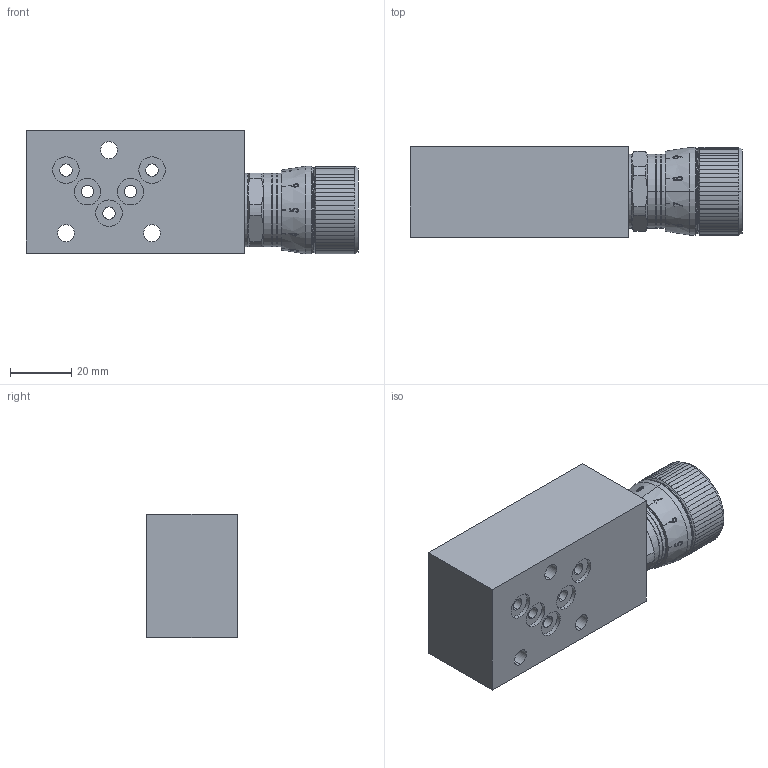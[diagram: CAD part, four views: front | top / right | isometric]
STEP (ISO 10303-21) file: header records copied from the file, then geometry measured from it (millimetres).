
FILE_DESCRIPTION (( 'STEP AP214' ), '1' );
FILE_NAME ('BDRP4.STEP', '2017-04-10T12:49:05', ( '' ), ( '' ), 'SwSTEP 2.0', 'SolidWorks 2016', '' );
FILE_SCHEMA (( 'AUTOMOTIVE_DESIGN' ));
Length unit declared in the file: millimetre
Products named in the file (1): BDRP4
Bounding box: 108 x 29.5 x 40.25 mm (x, y, z)
Volume: 100335 mm3; surface area: 19766.8 mm2
Topology: 1 solids, 1 shells, 623 faces, 1695 edges, 1106 vertices
Faces by surface type: plane 373, cylinder 130, bspline 72, cone 43, torus 5
Entity records: 30528 total; most frequent: CARTESIAN_POINT 9182, ORIENTED_EDGE 3378, DIRECTION 2486, EDGE_CURVE 1689, VERTEX_POINT 1106, AXIS2_PLACEMENT_3D 901, VECTOR 684, LINE 684
